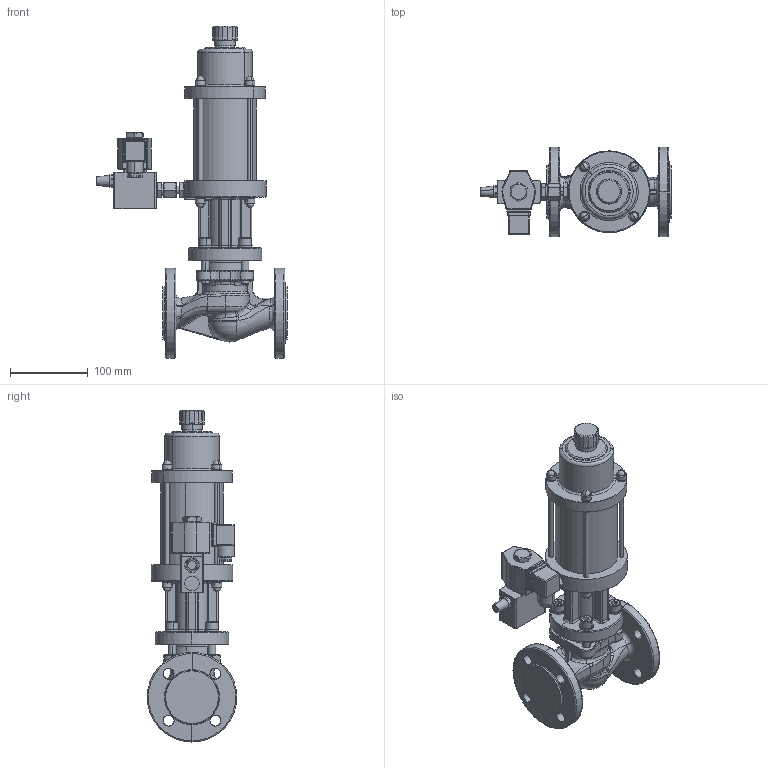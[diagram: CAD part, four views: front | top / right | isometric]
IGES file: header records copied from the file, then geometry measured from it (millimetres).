
Global section: file name: No Iges File Name specified; native system: AutoDesk Inventor R12.0; preprocessor: AutoDesk Inventor Iges Exporter R12.0; date: 20100310.075212; units: millimetre
Bounding box: 244.99 x 115 x 426.05 mm (x, y, z)
Volume: 2191479.3 mm3; surface area: 242341.4 mm2
Topology: 1 solids, 1 shells, 1183 faces, 3041 edges, 1819 vertices
Faces by surface type: plane 439, bspline 270, cylinder 209, cone 97, revolution 80, torus 54, sphere 34
